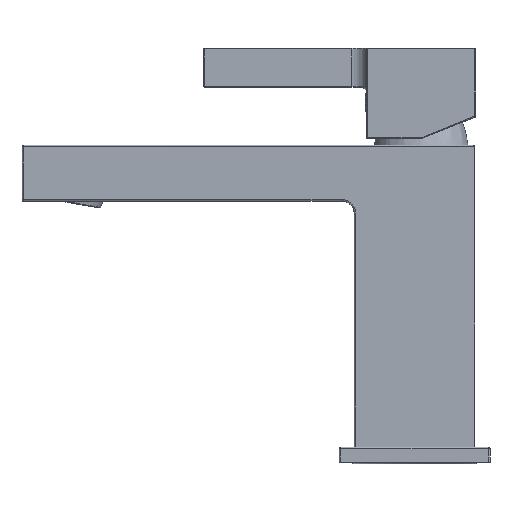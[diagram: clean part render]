
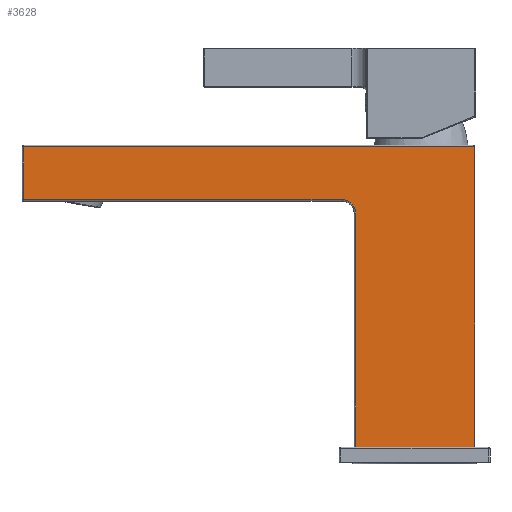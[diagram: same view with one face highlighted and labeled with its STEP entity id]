
A CAD part, top view. The second image highlights one B-rep face of the part: STEP entity #3628.
In plain terms, the highlighted planar face has unit normal (0, 0, 1).
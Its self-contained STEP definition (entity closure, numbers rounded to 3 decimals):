
#294=CIRCLE('',#4034,4.5);
#606=FACE_OUTER_BOUND('',#837,.T.);
#837=EDGE_LOOP('',(#3043,#3044,#3045,#3046,#3047,#3048,#3049));
#1093=LINE('',#6789,#1315);
#1124=LINE('',#6941,#1346);
#1125=LINE('',#6943,#1347);
#1126=LINE('',#6945,#1348);
#1127=LINE('',#6947,#1349);
#1128=LINE('',#6949,#1350);
#1315=VECTOR('',#4915,39.5);
#1346=VECTOR('',#5044,77.5);
#1347=VECTOR('',#5045,99.5);
#1348=VECTOR('',#5046,149.5);
#1349=VECTOR('',#5047,17.5);
#1350=VECTOR('',#5048,105.5);
#1597=VERTEX_POINT('',#6787);
#1598=VERTEX_POINT('',#6788);
#1640=VERTEX_POINT('',#6940);
#1641=VERTEX_POINT('',#6942);
#1642=VERTEX_POINT('',#6944);
#1643=VERTEX_POINT('',#6946);
#1644=VERTEX_POINT('',#6948);
#2051=EDGE_CURVE('',#1597,#1598,#1093,.T.);
#2111=EDGE_CURVE('',#1640,#1598,#1124,.T.);
#2112=EDGE_CURVE('',#1641,#1597,#1125,.T.);
#2113=EDGE_CURVE('',#1641,#1642,#1126,.T.);
#2114=EDGE_CURVE('',#1642,#1643,#1127,.T.);
#2115=EDGE_CURVE('',#1643,#1644,#1128,.T.);
#2116=EDGE_CURVE('',#1644,#1640,#294,.T.);
#3043=ORIENTED_EDGE('',*,*,#2111,.T.);
#3044=ORIENTED_EDGE('',*,*,#2051,.F.);
#3045=ORIENTED_EDGE('',*,*,#2112,.F.);
#3046=ORIENTED_EDGE('',*,*,#2113,.T.);
#3047=ORIENTED_EDGE('',*,*,#2114,.T.);
#3048=ORIENTED_EDGE('',*,*,#2115,.T.);
#3049=ORIENTED_EDGE('',*,*,#2116,.T.);
#3208=PLANE('',#4033);
#3628=ADVANCED_FACE('',(#606),#3208,.F.);
#4033=AXIS2_PLACEMENT_3D('',#6939,#5042,#5043);
#4034=AXIS2_PLACEMENT_3D('',#6950,#5049,#5050);
#4915=DIRECTION('',(-1.,0.,0.));
#5042=DIRECTION('center_axis',(0.,0.,
-1.));
#5043=DIRECTION('ref_axis',(-1.,0.,0.));
#5044=DIRECTION('',(0.,-1.,0.));
#5045=DIRECTION('',(0.,-1.,0.));
#5046=DIRECTION('',(-1.,0.,0.));
#5047=DIRECTION('',(0.,-1.,0.));
#5048=DIRECTION('',(1.,0.,0.));
#5049=DIRECTION('center_axis',(0.,0.,
-1.));
#5050=DIRECTION('ref_axis',(0.,1.,0.));
#6787=CARTESIAN_POINT('',(20.,5.,18.));
#6788=CARTESIAN_POINT('',(-19.5,5.,18.));
#6789=CARTESIAN_POINT('',(20.,5.,18.));
#6939=CARTESIAN_POINT('Origin',(0.,5.,18.));
#6940=CARTESIAN_POINT('',(-19.5,82.5,18.));
#6941=CARTESIAN_POINT('',(-19.5,82.5,18.));
#6942=CARTESIAN_POINT('',(20.,104.5,18.));
#6943=CARTESIAN_POINT('',(20.,104.5,18.));
#6944=CARTESIAN_POINT('',(-129.5,104.5,18.));
#6945=CARTESIAN_POINT('',(20.,104.5,18.));
#6946=CARTESIAN_POINT('',(-129.5,87.,18.));
#6947=CARTESIAN_POINT('',(-129.5,104.5,18.));
#6948=CARTESIAN_POINT('',(-24.,87.,18.));
#6949=CARTESIAN_POINT('',(-129.5,87.,18.));
#6950=CARTESIAN_POINT('Origin',(-24.,82.5,18.));
